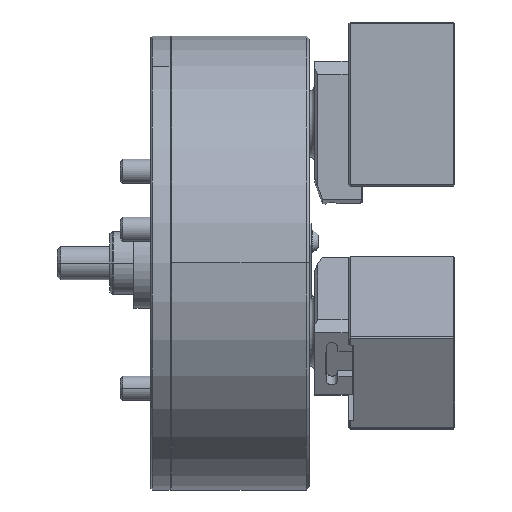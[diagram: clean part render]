
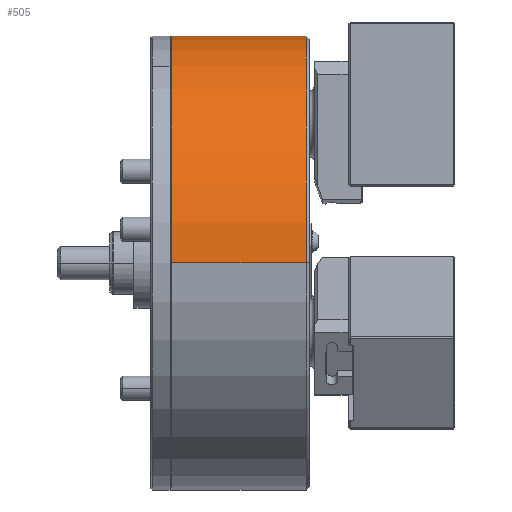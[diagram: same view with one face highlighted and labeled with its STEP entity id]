
A CAD part, top view. The second image highlights one B-rep face of the part: STEP entity #505.
In plain terms, the highlighted cylindrical face has radius 150 mm (diameter 300 mm), a partial arc.
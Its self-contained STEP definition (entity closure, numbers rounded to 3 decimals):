
#505 = ADVANCED_FACE ( 'NONE', ( #28269 ), #37655, .T. ) ;
#3446 = CIRCLE ( 'NONE', #17595, 150. ) ;
#7234 = EDGE_LOOP ( 'NONE', ( #32058, #18247, #33590, #9328 ) ) ;
#9218 = EDGE_CURVE ( 'NONE', #50742, #36873, #36183, .T. ) ;
#9328 = ORIENTED_EDGE ( 'NONE', *, *, #19628, .F. ) ;
#15539 = CARTESIAN_POINT ( 'NONE',  ( -2., 0., 0. ) ) ;
#17595 = AXIS2_PLACEMENT_3D ( 'NONE', #21702, #49622, #25684 ) ;
#18247 = ORIENTED_EDGE ( 'NONE', *, *, #9218, .T. ) ;
#18490 = VERTEX_POINT ( 'NONE', #35139 ) ;
#19061 = CARTESIAN_POINT ( 'NONE',  ( 63.843, 0., 150. ) ) ;
#19501 = DIRECTION ( 'NONE',  ( 0., 0., -1. ) ) ;
#19584 = CARTESIAN_POINT ( 'NONE',  ( 63.843, 0., -150. ) ) ;
#19628 = EDGE_CURVE ( 'NONE', #31581, #18490, #46919, .T. ) ;
#21702 = CARTESIAN_POINT ( 'NONE',  ( -91.2, 0., 0. ) ) ;
#25684 = DIRECTION ( 'NONE',  ( 0., 0., -1. ) ) ;
#26862 = CARTESIAN_POINT ( 'NONE',  ( 63.843, 0., 0. ) ) ;
#27549 = DIRECTION ( 'NONE',  ( 1., 0., 0. ) ) ;
#28080 = VECTOR ( 'NONE', #50959, 1000. ) ;
#28269 = FACE_OUTER_BOUND ( 'NONE', #7234, .T. ) ;
#30914 = CIRCLE ( 'NONE', #37785, 150. ) ;
#31581 = VERTEX_POINT ( 'NONE', #46155 ) ;
#32058 = ORIENTED_EDGE ( 'NONE', *, *, #37003, .T. ) ;
#33590 = ORIENTED_EDGE ( 'NONE', *, *, #42917, .F. ) ;
#35139 = CARTESIAN_POINT ( 'NONE',  ( -2., 0., -150. ) ) ;
#36183 = LINE ( 'NONE', #19061, #28080 ) ;
#36873 = VERTEX_POINT ( 'NONE', #47885 ) ;
#37003 = EDGE_CURVE ( 'NONE', #31581, #50742, #3446, .T. ) ;
#37655 = CYLINDRICAL_SURFACE ( 'NONE', #49808, 150. ) ;
#37785 = AXIS2_PLACEMENT_3D ( 'NONE', #15539, #43370, #19501 ) ;
#38567 = DIRECTION ( 'NONE',  ( 0., 0., -1. ) ) ;
#38730 = DIRECTION ( 'NONE',  ( 1., 0., 0. ) ) ;
#41551 = CARTESIAN_POINT ( 'NONE',  ( -91.2, 0., 150. ) ) ;
#42917 = EDGE_CURVE ( 'NONE', #18490, #36873, #30914, .T. ) ;
#43370 = DIRECTION ( 'NONE',  ( 1., 0., 0. ) ) ;
#45668 = VECTOR ( 'NONE', #27549, 1000. ) ;
#46155 = CARTESIAN_POINT ( 'NONE',  ( -91.2, 0., -150. ) ) ;
#46919 = LINE ( 'NONE', #19584, #45668 ) ;
#47885 = CARTESIAN_POINT ( 'NONE',  ( -2., 0., 150. ) ) ;
#49622 = DIRECTION ( 'NONE',  ( 1., 0., 0. ) ) ;
#49808 = AXIS2_PLACEMENT_3D ( 'NONE', #26862, #38730, #38567 ) ;
#50742 = VERTEX_POINT ( 'NONE', #41551 ) ;
#50959 = DIRECTION ( 'NONE',  ( 1., 0., 0. ) ) ;
